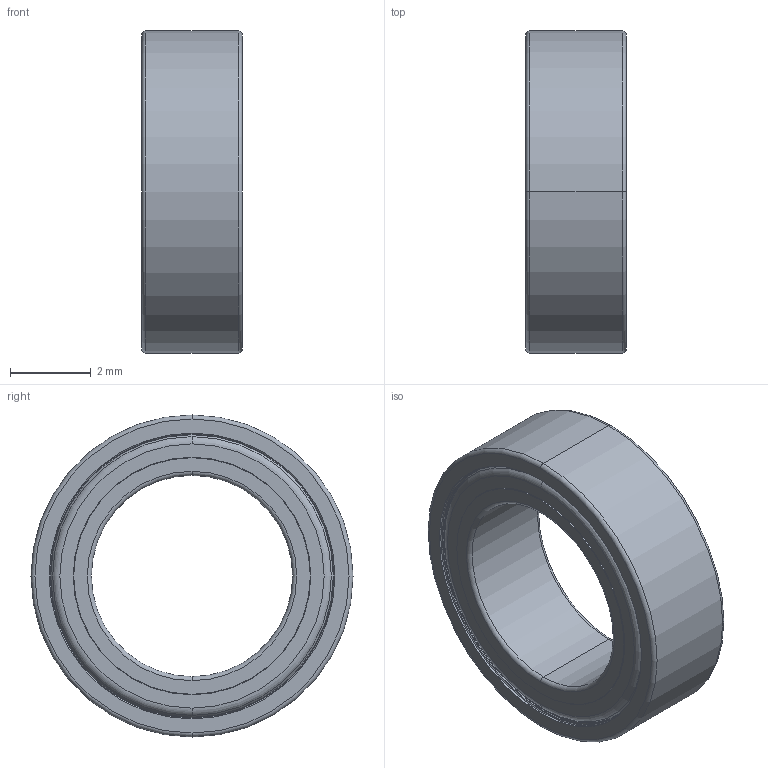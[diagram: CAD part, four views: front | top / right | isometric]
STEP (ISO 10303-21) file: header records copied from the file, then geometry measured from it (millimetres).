
FILE_DESCRIPTION((''),'2;1');
FILE_NAME('MR85ZZEA013','2025-12-19T16:52:01',('qinghui.yi'),(''),'CREO PARAMETRIC BY PTC INC, 2019164','CREO PARAMETRIC BY PTC INC, 2019164','');
FILE_SCHEMA(('CONFIG_CONTROL_DESIGN','SHAPE_APPEARANCE_LAYERS_GROUPS'));
Length unit declared in the file: millimetre
Products named in the file (1): MR85ZZEA013
Bounding box: 2.5 x 8 x 8 mm (x, y, z)
Volume: 48.2 mm3; surface area: 299.4 mm2
Topology: 2 solids, 2 shells, 88 faces, 180 edges, 106 vertices
Faces by surface type: torus 34, cylinder 24, cone 16, plane 14
Entity records: 2595 total; most frequent: DIRECTION 496, CARTESIAN_POINT 374, ORIENTED_EDGE 360, AXIS2_PLACEMENT_3D 228, COLOUR_RGB 196, EDGE_CURVE 180, CIRCLE 140, VERTEX_POINT 106
